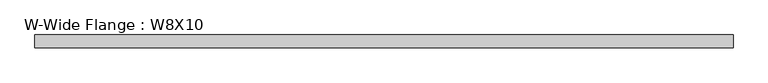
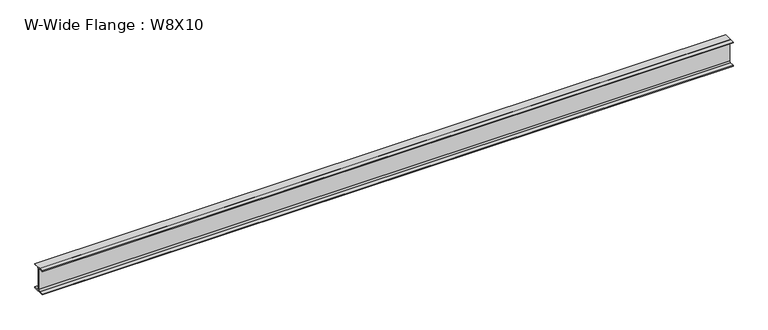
"""IFC4 building model written with IfcOpenShell, lengths in millimetres: beam geometry, W-Wide Flange : W8X10."""

from ifc_helpers import new_model, si_unit, point, frame, frame_2d, origin, place, context, project, spatial, polyline, circle_curve, trimmed, segment, composite_curve, outline, extrude, source, transform, mapped, element, save


def w_wide_flange_w8x10_22581100(model_context):
    return source(origin(), model_context, "Body", "SweptSolid", [
        extrude(outline(composite_curve([segment(polyline([(50.038, -94.996), (50.038, -100.203), (-50.038, -100.203), (-50.038, -94.996), (-14.4145, -94.996)]), True, "CONTINUOUS"), segment(trimmed(circle_curve(frame_2d((-14.4145, -82.7405)), 12.2555), [point((-14.4145, -94.996))], [point((-2.159, -82.7405))], True, "CARTESIAN"), True, "CONTINUOUS"), segment(polyline([(-2.159, -82.7405), (-2.159, 82.7405)]), True, "CONTINUOUS"), segment(trimmed(circle_curve(frame_2d((-14.4145, 82.7405)), 12.2555), [point((-2.159, 82.7405))], [point((-14.4145, 94.996))], True, "CARTESIAN"), True, "CONTINUOUS"), segment(polyline([(-14.4145, 94.996), (-50.038, 94.996), (-50.038, 100.203), (50.038, 100.203), (50.038, 94.996), (14.4145, 94.996)]), True, "CONTINUOUS"), segment(trimmed(circle_curve(frame_2d((14.4145, 82.7405)), 12.2555), [point((14.4145, 94.996))], [point((2.159, 82.7405))], True, "CARTESIAN"), True, "CONTINUOUS"), segment(polyline([(2.159, 82.7405), (2.159, -82.7405)]), True, "CONTINUOUS"), segment(trimmed(circle_curve(frame_2d((14.4145, -82.7405)), 12.2555), [point((2.159, -82.7405))], [point((14.4145, -94.996))], True, "CARTESIAN"), True, "CONTINUOUS"), segment(polyline([(14.4145, -94.996), (50.038, -94.996)]), True, "CONTINUOUS")], self_intersect=False)), frame((-2744.7378906, 0.0, 0.0), z_axis=(1.0, 0.0, 0.0), x_axis=(0.0, 1.0, 0.0)), (0.0, 0.0, 1.0), 5476.5713906),
    ])


if __name__ == "__main__":
    model = new_model("IFC4")
    model_context = context("Model", 3, world=origin())
    ifc_project = project(units=[si_unit("LENGTHUNIT", "METRE", prefix="MILLI")], contexts=[model_context])
    site = spatial("IfcSite", under=ifc_project)
    building = spatial("IfcBuilding", under=site)
    placement = place(None, origin())
    w_wide_flange_w8x10_shape = w_wide_flange_w8x10_22581100(model_context)
    element("IfcBeam", 1, ObjectType="W-Wide Flange : W8X10", at=placement, inside=building, context=model_context, shape_type="MappedRepresentation", body=[
        mapped(w_wide_flange_w8x10_shape, transform((0.0, 0.0, 0.0), x_axis=(1.0, 0.0, 0.0), y_axis=(0.0, 1.0, 0.0), z_axis=(0.0, 0.0, 1.0))),
    ])
    save(model, "model.ifc")
